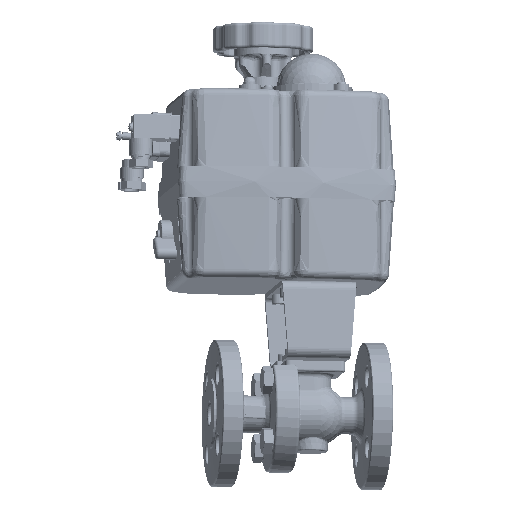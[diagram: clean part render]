
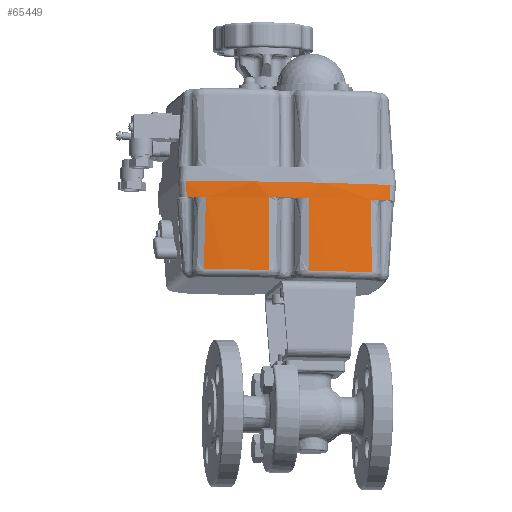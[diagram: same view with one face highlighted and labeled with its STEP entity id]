
A CAD part, top view. The second image highlights one B-rep face of the part: STEP entity #65449.
In plain terms, the highlighted conical face has half-angle 4 degrees and reference radius 403.75 mm.
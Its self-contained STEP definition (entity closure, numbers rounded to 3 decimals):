
#64523=CARTESIAN_POINT('',(-128.554,119.491,48.439));
#64524=VERTEX_POINT('',#64523);
#64538=CARTESIAN_POINT('',(-154.321,119.961,52.271));
#64539=VERTEX_POINT('',#64538);
#64540=CARTESIAN_POINT('',(-201.133,71.174,-345.069));
#64541=DIRECTION('',(0.,-0.993,0.122));
#64542=DIRECTION('',(0.989,-0.018,-0.147));
#64543=AXIS2_PLACEMENT_3D('',#64540,#64541,#64542);
#64544=CIRCLE('',#64543,403.051);
#64545=EDGE_CURVE('',#64524,#64539,#64544,.T.);
#64707=CARTESIAN_POINT('',(-76.755,117.896,35.454));
#64708=VERTEX_POINT('',#64707);
#64743=CARTESIAN_POINT('',(-88.721,118.345,39.104));
#64744=VERTEX_POINT('',#64743);
#64745=CARTESIAN_POINT('',(-201.133,71.174,-345.069));
#64746=DIRECTION('',(0.,-0.993,0.122));
#64747=DIRECTION('',(0.989,-0.018,-0.147));
#64748=AXIS2_PLACEMENT_3D('',#64745,#64746,#64747);
#64749=CIRCLE('',#64748,403.051);
#64750=EDGE_CURVE('',#64708,#64744,#64749,.T.);
#65095=CARTESIAN_POINT('',(-207.617,120.287,54.926));
#65096=VERTEX_POINT('',#65095);
#65131=CARTESIAN_POINT('',(-208.229,130.297,54.391));
#65132=VERTEX_POINT('',#65131);
#65133=CARTESIAN_POINT('',(-207.617,120.287,54.926));
#65134=CARTESIAN_POINT('',(-207.788,123.086,54.777));
#65135=CARTESIAN_POINT('',(-207.992,126.422,54.599));
#65136=CARTESIAN_POINT('',(-208.196,129.758,54.42));
#65137=CARTESIAN_POINT('',(-208.229,130.297,54.391));
#65138=B_SPLINE_CURVE_WITH_KNOTS('',3,(#65133,#65134,#65135,#65136,#65137),.UNSPECIFIED.,.F.,.U.,(4,1,4),(5.021,13.443,15.063),.UNSPECIFIED.);
#65139=EDGE_CURVE('',#65096,#65132,#65138,.T.);
#65203=CARTESIAN_POINT('',(-195.162,120.288,54.934));
#65204=VERTEX_POINT('',#65203);
#65218=CARTESIAN_POINT('',(-201.133,71.174,-345.069));
#65219=DIRECTION('',(0.,-0.993,0.122));
#65220=DIRECTION('',(0.989,-0.018,-0.147));
#65221=AXIS2_PLACEMENT_3D('',#65218,#65219,#65220);
#65222=CIRCLE('',#65221,403.051);
#65223=EDGE_CURVE('',#65204,#65096,#65222,.T.);
#65354=CARTESIAN_POINT('',(-201.133,81.1,-346.287));
#65355=DIRECTION('',(0.,0.993,-0.122));
#65356=DIRECTION('',(0.989,-0.018,-0.147));
#65357=AXIS2_PLACEMENT_3D('',#65354,#65355,#65356);
#65358=CONICAL_SURFACE('',#65357,403.75,4.);
#65359=CARTESIAN_POINT('',(-88.15,71.409,41.26));
#65360=VERTEX_POINT('',#65359);
#65361=CARTESIAN_POINT('',(-129.038,72.596,50.93));
#65362=VERTEX_POINT('',#65361);
#65363=CARTESIAN_POINT('',(-201.133,24.675,-339.359));
#65364=DIRECTION('',(0.,-0.993,0.122));
#65365=DIRECTION('',(0.232,0.119,0.965));
#65366=AXIS2_PLACEMENT_3D('',#65363,#65364,#65365);
#65367=CIRCLE('',#65366,399.775);
#65368=EDGE_CURVE('',#65360,#65362,#65367,.T.);
#65369=ORIENTED_EDGE('',*,*,#65368,.F.);
#65370=CARTESIAN_POINT('',(-88.721,118.345,39.104));
#65371=CARTESIAN_POINT('',(-88.719,116.917,39.174));
#65372=CARTESIAN_POINT('',(-88.715,115.49,39.244));
#65373=CARTESIAN_POINT('',(-88.707,113.005,39.364));
#65374=CARTESIAN_POINT('',(-88.703,111.947,39.415));
#65375=CARTESIAN_POINT('',(-88.683,107.637,39.623));
#65376=CARTESIAN_POINT('',(-88.661,104.384,39.778));
#65377=CARTESIAN_POINT('',(-88.585,95.928,40.174));
#65378=CARTESIAN_POINT('',(-88.52,90.724,40.413));
#65379=CARTESIAN_POINT('',(-88.358,80.816,40.856));
#65380=CARTESIAN_POINT('',(-88.264,76.112,41.061));
#65381=CARTESIAN_POINT('',(-88.15,71.409,41.26));
#65382=B_SPLINE_CURVE_WITH_KNOTS('',3,(#65370,#65371,#65372,#65373,#65374,#65375,#65376,#65377,#65378,#65379,#65380,#65381),.UNSPECIFIED.,.F.,.U.,(4,2,2,2,2,4),(13.201,17.487,20.665,30.433,46.062,60.189),.UNSPECIFIED.);
#65383=EDGE_CURVE('',#64744,#65360,#65382,.T.);
#65384=ORIENTED_EDGE('',*,*,#65383,.F.);
#65385=ORIENTED_EDGE('',*,*,#64750,.F.);
#65386=CARTESIAN_POINT('',(-76.03,127.883,34.731));
#65387=VERTEX_POINT('',#65386);
#65388=CARTESIAN_POINT('',(-76.03,127.883,34.731));
#65389=CARTESIAN_POINT('',(-76.069,127.346,34.77));
#65390=CARTESIAN_POINT('',(-76.108,126.81,34.808));
#65391=CARTESIAN_POINT('',(-76.349,123.481,35.049));
#65392=CARTESIAN_POINT('',(-76.552,120.689,35.251));
#65393=CARTESIAN_POINT('',(-76.755,117.896,35.454));
#65394=B_SPLINE_CURVE_WITH_KNOTS('',3,(#65388,#65389,#65390,#65391,#65392,#65393),.UNSPECIFIED.,.F.,.U.,(4,2,4),(5.022,6.639,15.06),.UNSPECIFIED.);
#65395=EDGE_CURVE('',#65387,#64708,#65394,.T.);
#65396=ORIENTED_EDGE('',*,*,#65395,.F.);
#65397=CARTESIAN_POINT('',(-201.133,81.1,-346.287));
#65398=DIRECTION('',(0.,0.993,-0.122));
#65399=DIRECTION('',(0.989,-0.018,-0.147));
#65400=AXIS2_PLACEMENT_3D('',#65397,#65398,#65399);
#65401=CIRCLE('',#65400,403.75);
#65402=EDGE_CURVE('',#65132,#65387,#65401,.T.);
#65403=ORIENTED_EDGE('',*,*,#65402,.F.);
#65404=ORIENTED_EDGE('',*,*,#65139,.F.);
#65405=ORIENTED_EDGE('',*,*,#65223,.F.);
#65406=CARTESIAN_POINT('',(-196.757,73.392,57.412));
#65407=VERTEX_POINT('',#65406);
#65408=CARTESIAN_POINT('',(-196.757,73.392,57.412));
#65409=CARTESIAN_POINT('',(-196.699,74.645,57.346));
#65410=CARTESIAN_POINT('',(-196.642,75.898,57.279));
#65411=CARTESIAN_POINT('',(-196.512,78.824,57.125));
#65412=CARTESIAN_POINT('',(-196.441,80.496,57.036));
#65413=CARTESIAN_POINT('',(-196.329,83.213,56.892));
#65414=CARTESIAN_POINT('',(-196.286,84.258,56.837));
#65415=CARTESIAN_POINT('',(-196.116,88.552,56.61));
#65416=CARTESIAN_POINT('',(-195.996,91.801,56.438));
#65417=CARTESIAN_POINT('',(-195.704,100.25,55.992));
#65418=CARTESIAN_POINT('',(-195.545,105.451,55.717));
#65419=CARTESIAN_POINT('',(-195.316,113.863,55.273));
#65420=CARTESIAN_POINT('',(-195.236,117.076,55.103));
#65421=CARTESIAN_POINT('',(-195.162,120.288,54.934));
#65422=B_SPLINE_CURVE_WITH_KNOTS('',3,(#65408,#65409,#65410,#65411,#65412,#65413,#65414,#65415,#65416,#65417,#65418,#65419,#65420,#65421),.UNSPECIFIED.,.F.,.U.,(4,2,2,2,2,2,4),(17.956,21.725,26.752,29.895,39.663,55.291,64.945),.UNSPECIFIED.);
#65423=EDGE_CURVE('',#65407,#65204,#65422,.T.);
#65424=ORIENTED_EDGE('',*,*,#65423,.F.);
#65425=CARTESIAN_POINT('',(-154.809,73.067,54.763));
#65426=VERTEX_POINT('',#65425);
#65427=CARTESIAN_POINT('',(-201.133,24.675,-339.359));
#65428=DIRECTION('',(0.,-0.993,0.122));
#65429=DIRECTION('',(0.063,0.122,0.991));
#65430=AXIS2_PLACEMENT_3D('',#65427,#65428,#65429);
#65431=CIRCLE('',#65430,399.775);
#65432=EDGE_CURVE('',#65426,#65407,#65431,.T.);
#65433=ORIENTED_EDGE('',*,*,#65432,.F.);
#65434=CARTESIAN_POINT('',(-154.321,119.961,52.271));
#65435=DIRECTION('',(-0.01,-0.999,0.053));
#65436=VECTOR('',#65435,46.963);
#65437=LINE('',#65434,#65436);
#65438=EDGE_CURVE('',#64539,#65426,#65437,.T.);
#65439=ORIENTED_EDGE('',*,*,#65438,.F.);
#65440=ORIENTED_EDGE('',*,*,#64545,.F.);
#65441=CARTESIAN_POINT('',(-129.038,72.596,50.93));
#65442=DIRECTION('',(0.01,0.999,-0.053));
#65443=VECTOR('',#65442,46.963);
#65444=LINE('',#65441,#65443);
#65445=EDGE_CURVE('',#65362,#64524,#65444,.T.);
#65446=ORIENTED_EDGE('',*,*,#65445,.F.);
#65447=EDGE_LOOP('',(#65369,#65384,#65385,#65396,#65403,#65404,#65405,#65424,#65433,#65439,#65440,#65446));
#65448=FACE_OUTER_BOUND('',#65447,.T.);
#65449=ADVANCED_FACE('',(#65448),#65358,.T.);
